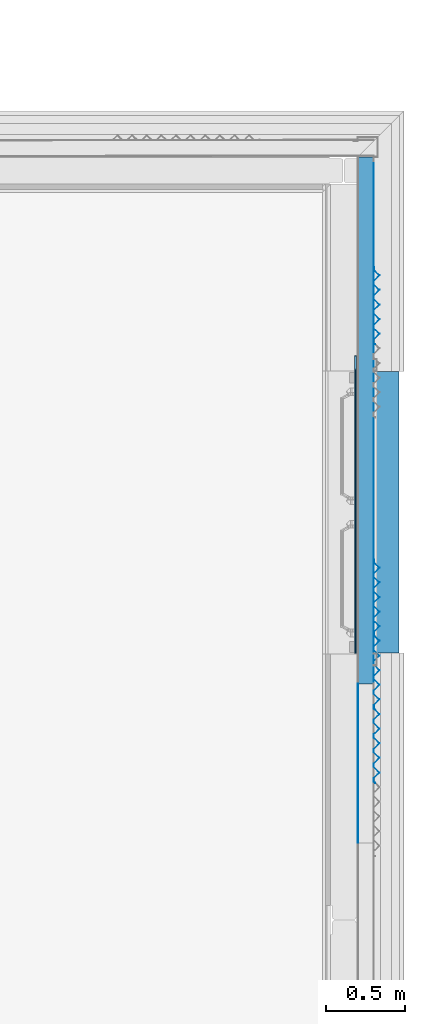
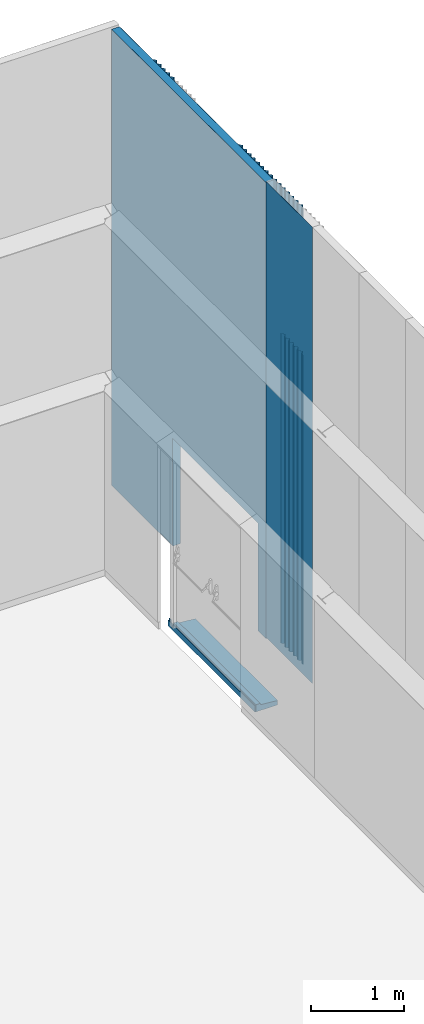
# One storey, part 111 of 338: 10 building element parts, 1 opening, 7 elements without a shape of their own.
"""IFC2X3 building model written with IfcOpenShell, lengths in millimetres."""

from ifc_helpers import new_model, entity, si_unit, converted_unit, derived_unit, money_unit, direction, frame, origin_with_axes, place, context, subcontext, project, spatial, faceted_brep, material, type_object, element, aggregate, save


model = new_model("IFC2X3")

# Units and contexts
model_context = context("Model", 3, precision=0.01, world=origin_with_axes(), true_north=direction((0.0, 1.0)))
plan_context = context("Plan", 3, precision=0.01, world=origin_with_axes(), true_north=direction((0.0, 1.0)))
body_context = subcontext(model_context, "Body", "Model", "MODEL_VIEW")
ifc_project = project(units=[si_unit("LENGTHUNIT", "METRE", prefix="MILLI"), si_unit("AREAUNIT", "SQUARE_METRE"), si_unit("VOLUMEUNIT", "CUBIC_METRE"), converted_unit("PLANEANGLEUNIT", "DEGREE", entity("IfcPlaneAngleMeasure", 0.0174532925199), si_unit("PLANEANGLEUNIT", "RADIAN"), dimensions=[0, 0, 0, 0, 0, 0, 0]), money_unit("EUR"), converted_unit("TIMEUNIT", "Year", entity("IfcTimeMeasure", 31556926.0), si_unit("TIMEUNIT", "SECOND"), dimensions=[0, 0, 1, 0, 0, 0, 0]), si_unit("MASSUNIT", "GRAM", prefix="KILO"), si_unit("THERMODYNAMICTEMPERATUREUNIT", "DEGREE_CELSIUS"), si_unit("LUMINOUSINTENSITYUNIT", "LUMEN"), si_unit("ENERGYUNIT", "JOULE", prefix="MEGA"), derived_unit("THERMALCONDUCTANCEUNIT", [(si_unit("POWERUNIT", "WATT"), 1), (si_unit("LENGTHUNIT", "METRE"), -1), (si_unit("THERMODYNAMICTEMPERATUREUNIT", "KELVIN"), -1)]), derived_unit("SPECIFICHEATCAPACITYUNIT", [(si_unit("ENERGYUNIT", "JOULE"), 1), (si_unit("MASSUNIT", "GRAM", prefix="KILO"), -1), (si_unit("THERMODYNAMICTEMPERATUREUNIT", "KELVIN"), -1)]), derived_unit("MASSDENSITYUNIT", [(si_unit("MASSUNIT", "GRAM", prefix="KILO"), 1), (si_unit("VOLUMEUNIT", "CUBIC_METRE"), -1)])], contexts=[model_context, plan_context])

# Site, building, storey
site_placement = place(None, origin_with_axes())
site = spatial("IfcSite", under=ifc_project, at=site_placement, Name="Fortuinstraat Woensdrecht", CompositionType="ELEMENT")
building_placement = place(site_placement, origin_with_axes())
building = spatial("IfcBuilding", under=site, at=building_placement, Name="IKC Fortuna", CompositionType="ELEMENT")
storey_placement = place(building_placement, origin_with_axes())
storey = spatial("IfcBuildingStorey", under=building, at=storey_placement, Name="00 begane grond", CompositionType="ELEMENT", Elevation=0.0)

# Wall, building element part
wall_type = type_object("IfcWallType", Name="21 sandwich 100", PredefinedType="NOTDEFINED")
wall_1_placement = place(storey_placement, frame((59433.4270571, 32181.3126832, 1000.0), z_axis=(0.0, 0.0, 1.0), x_axis=(0.0, -1.0, 0.0)))
wall_1 = element("IfcWall", 1, at=wall_1_placement, inside=storey, type_object=wall_type, Name="21_Wand_sandwichplaat")
ifc_material_1 = material(Name="Metaal - Aluminium")
building_element_part_1_placement = place(wall_1_placement, origin_with_axes())
building_element_part_1 = element("IfcBuildingElementPart", 2, at=building_element_part_1_placement, material=ifc_material_1, Name="Metaal - Aluminium", context=body_context, shape_type="Brep", body=[
    faceted_brep([(0.0, 6.21440676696e-08, 18.9263474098), (1000.0, 7.12176984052e-08, 18.9263474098), (1000.0, 0.0, 6000.0), (0.0, 0.0, 6000.0), (0.0, 1.00000004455, 18.9261694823), (1000.0, 1.00000004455, 18.9261694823), (1000.0, 0.999999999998, 6000.0), (0.0, 0.999999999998, 6000.0)], [[[0, 1, 2, 3]], [[1, 0, 4, 5]], [[2, 1, 5, 6]], [[3, 2, 6, 7]], [[0, 3, 7, 4]], [[5, 4, 7, 6]]]),
])
aggregate(wall_1, [building_element_part_1])

# Covering, building element parts
covering_type = type_object("IfcCoveringType", Name="41 dorpel d bu 280 x 95", PredefinedType="NOTDEFINED")
covering_placement = place(storey_placement, frame((59553.4270571, 34145.3126656, -2.5), z_axis=(0.0, 0.0, 1.0), x_axis=(0.0, -1.0, 0.0)))
covering = element("IfcCovering", 3, at=covering_placement, inside=storey, type_object=covering_type, Name="41_Afwerking_Waterslag", PredefinedType="NOTDEFINED")
ifc_material_2 = material(Name="Steen - Kunststeen")
building_element_part_2_placement = place(covering_placement, origin_with_axes())
building_element_part_2 = element("IfcBuildingElementPart", 4, at=building_element_part_2_placement, material=ifc_material_2, Name="Steen - Kunststeen", context=body_context, shape_type="Brep", body=[
    faceted_brep([(-63.6579437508, -126.653126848, 22.5), (-64.983962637, -123.261687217, 22.5), (-64.983962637, -119.99999994, 22.5), (-100.0, -119.99999994, 22.5), (-100.0, -130.0, 22.5), (-38.4839618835, -130.0, 22.5), (-60.3832175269, -128.245721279, 22.5), (-63.6579437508, -126.653126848, -47.5), (-64.983962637, -123.261687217, -47.5), (-64.983962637, -119.99999994, -47.5), (-4.98396263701, -119.99999994, -47.5), (-4.98396263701, -119.99999994, 22.5), (0.0, -119.99999994, 22.5), (0.0, -119.99999994, -72.5), (-100.0, -119.99999994, -72.5), (-100.0, -130.0, -72.5), (-100.0, -129.999999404, 2.49999821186), (-38.4839693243, -129.999999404, 2.49999821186), (-38.4839693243, -129.999999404, -47.5), (-60.3832175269, -128.245721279, -47.5), (-4.98396263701, -129.999999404, -47.5), (-4.98396263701, -130.0, 22.5), (-4.98396263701, -129.999999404, 2.49999821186), (1770.00013762, -130.0, 22.5), (1770.00013762, -76.0, 22.5), (0.0, -76.0, 22.5), (0.0, 140.0, -72.5), (0.0, -76.0, 3.2274112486), (0.0, 140.0, -16.4126924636), (1770.00013762, 140.0, -72.5), (1770.00013762, -130.0, -72.5), (1770.00013762, -129.999999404, 2.49999821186), (1770.00013762, 140.0, -16.4126924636), (1770.00013762, -76.0, 3.2274112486)], [[[0, 1, 2, 3, 4, 5, 6]], [[1, 0, 7, 8]], [[9, 2, 1, 8]], [[10, 11, 12, 13, 14, 3, 2, 9]], [[4, 3, 14, 15, 16]], [[17, 5, 4, 16]], [[6, 5, 17, 18, 19]], [[0, 6, 19, 7]], [[10, 9, 8, 7, 19, 18, 20]], [[21, 11, 10, 20, 22]], [[11, 21, 23, 24, 25, 12]], [[26, 13, 12, 25, 27, 28]], [[14, 13, 26, 29, 30, 15]], [[18, 17, 16, 15, 30, 31, 22, 20]], [[21, 22, 31, 23]], [[31, 30, 29, 32, 33, 24, 23]], [[33, 27, 25, 24]], [[28, 27, 33, 32]], [[29, 26, 28, 32]]]),
])
ifc_material_3 = material(Name="Isolatie - PUR gespoten")
building_element_part_3_placement = place(covering_placement, origin_with_axes())
building_element_part_3 = element("IfcBuildingElementPart", 5, at=building_element_part_3_placement, material=ifc_material_3, Name="Isolatie - PUR gespoten", context=body_context, shape_type="Brep", body=[
    faceted_brep([(-14.6360004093, -134.570916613, 2.49999821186), (-21.1854528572, -131.385727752, 2.49999821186), (-38.4839693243, -129.999999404, 2.49999821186), (-100.0, -129.999999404, 2.49999821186), (-100.0, -140.0, 2.49999821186), (-12.5132832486, -140.0, 2.49999821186), (-14.6360004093, -134.570916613, -47.5), (-21.1854528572, -131.385727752, -47.5), (-38.4839693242, -129.999999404, -47.5), (-4.98396263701, -129.999999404, -47.5), (-4.98396263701, -129.999999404, 2.49999821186), (1770.00013762, -129.999999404, 2.49999821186), (1770.00013762, -129.999999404, -72.5), (-100.0, -129.999999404, -72.5), (-100.0, -140.0, -72.5), (-12.5132832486, -140.0, -47.5), (1770.00013762, -140.0, -72.5), (1770.00013762, -140.0, 2.49999821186), (-4.98396263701, -140.0, 2.49999821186), (-4.98396263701, -140.0, -47.5)], [[[0, 1, 2, 3, 4, 5]], [[1, 0, 6, 7]], [[8, 2, 1, 7]], [[9, 10, 11, 12, 13, 3, 2, 8]], [[14, 4, 3, 13]], [[15, 5, 4, 14, 16, 17, 18, 19]], [[0, 5, 15, 6]], [[9, 8, 7, 6, 15, 19]], [[18, 10, 9, 19]], [[10, 18, 17, 11]], [[12, 11, 17, 16]], [[16, 14, 13, 12]]]),
])
aggregate(covering, [building_element_part_2, building_element_part_3])

# Wall, opening, building element parts
wall_2_placement = place(storey_placement, frame((59533.4270571, 35495.2966283, 1000.0), z_axis=(0.0, 0.0, 1.0), x_axis=(0.0, -1.0, 0.0)))
wall_2 = element("IfcWall", 6, at=wall_2_placement, inside=storey, type_object=wall_type, Name="21_Wand_sandwichplaat")
opening_placement = place(wall_2_placement, frame((2234.98396266, 0.0, -1000.0), z_axis=(0.0, 0.0, 1.0), x_axis=(1.0, 0.0, 0.0)))
element("IfcOpeningElement", 7, at=opening_placement, cuts=wall_2, Name="31_Deur_H.14", context=body_context, shape_type="Brep", body=[
    faceted_brep([(-921.0, -40.0, 2410.0), (-921.0, -40.0, -485.0), (-921.0, -200.0, -485.0), (-921.0, -200.0, 2410.0), (905.0, -40.0, 2410.0), (905.0, -40.0, -485.0), (905.0, -200.0, -485.0), (905.0, -200.0, 2410.0)], [[[0, 1, 2, 3]], [[0, 4, 5, 1]], [[1, 5, 6, 2]], [[3, 2, 6, 7]], [[4, 0, 3, 7]], [[5, 4, 7, 6]]]),
    faceted_brep([(-921.0, -40.0, -485.0), (-921.0, -40.0, 2410.0), (-921.0, 100.0, 2410.0), (-921.0, 100.0, -485.0), (905.0, -40.0, -485.0), (905.0, -40.0, 2410.0), (905.0, 100.0, 2410.0), (905.0, 100.0, -485.0)], [[[0, 1, 2, 3]], [[0, 4, 5, 1]], [[1, 5, 6, 2]], [[3, 2, 6, 7]], [[4, 0, 3, 7]], [[5, 4, 7, 6]]]),
])
building_element_part_4_placement = place(wall_2_placement, origin_with_axes())
building_element_part_4 = element("IfcBuildingElementPart", 8, at=building_element_part_4_placement, material=ifc_material_1, Name="Metaal - Aluminium", context=body_context, shape_type="Brep", body=[
    faceted_brep([(3139.98396266, 0.0, 0.0), (3139.98396266, 0.0, 1410.0), (1313.98396266, 0.0, 1410.0), (1313.98396266, 0.0, 0.0), (0.0, 0.0, 0.0), (0.0, 0.0, 5979.99999804), (3313.98394504, 0.0, 5979.99999804), (3313.98394504, 0.0, 0.0), (3139.98396266, -0.999999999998, 0.0), (3139.98396266, -0.999999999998, 1410.0), (1313.98396266, -0.999999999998, 1410.0), (1313.98396266, -0.999999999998, 0.0), (0.0, -0.999999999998, 0.0), (0.0, -0.999999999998, 5979.99999804), (3313.98394504, -0.999999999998, 5979.99999804), (3313.98394504, -0.999999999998, 0.0)], [[[0, 1, 2, 3, 4, 5, 6, 7]], [[1, 0, 8, 9]], [[2, 1, 9, 10]], [[3, 2, 10, 11]], [[3, 11, 12, 4]], [[12, 13, 5, 4]], [[13, 14, 6, 5]], [[6, 14, 15, 7]], [[8, 0, 7, 15]], [[9, 8, 15, 14, 13, 12, 11, 10]]]),
])
ifc_material_4 = material(Name="Isolatie - Kunststof hard")
building_element_part_5_placement = place(wall_2_placement, origin_with_axes())
building_element_part_5 = element("IfcBuildingElementPart", 9, at=building_element_part_5_placement, material=ifc_material_4, Name="Isolatie - Kunststof hard", context=body_context, shape_type="Brep", body=[
    faceted_brep([(3139.98396266, -0.999999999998, 1410.0), (3139.98396266, -99.0, 1410.0), (1313.98396266, -99.0, 1410.0), (1313.98396266, -0.999999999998, 1410.0), (3139.98396266, -40.0, 0.0), (3139.98396266, -99.0, 0.0), (3139.98396266, -0.999999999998, 0.0), (3313.98394504, -99.0, 0.0), (3313.98394504, -99.0, 5979.99999804), (0.0, -99.0, 5979.99999804), (0.0, -99.0, 0.0), (1313.98396266, -99.0, 0.0), (1313.98396266, -40.0, 0.0), (1313.98396266, -0.999999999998, 0.0), (0.0, -0.999999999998, 5979.99999804), (3313.98394504, -0.999999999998, 5979.99999804), (3313.98394504, -0.999999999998, 0.0), (0.0, -0.999999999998, 0.0)], [[[0, 1, 2, 3]], [[4, 5, 1, 0, 6]], [[1, 5, 7, 8, 9, 10, 11, 2]], [[3, 2, 11, 12, 13]], [[14, 15, 16, 6, 0, 3, 13, 17]], [[5, 4, 6, 16, 7]], [[16, 15, 8, 7]], [[14, 9, 8, 15]], [[17, 10, 9, 14]], [[12, 11, 10, 17, 13]]]),
])
aggregate(wall_2, [building_element_part_4, building_element_part_5])

# Proxy, building element part
building_element_proxy_type = type_object("IfcBuildingElementProxyType", Name="21 Sandwich custom pyramid 946 x 37", PredefinedType="NOTDEFINED")
proxy_1_placement = place(storey_placement, frame((59533.4270571, 32043.6060069, 1000.0), z_axis=(0.0, 0.0, 1.0), x_axis=(0.0, -1.0, 0.0)))
proxy_1 = element("IfcBuildingElementProxy", 10, at=proxy_1_placement, inside=storey, type_object=building_element_proxy_type, Name="41_Generieke bekleding & afwerking buiten_sandwich custom pyramid")
building_element_part_6_placement = place(proxy_1_placement, origin_with_axes())
building_element_part_6 = element("IfcBuildingElementPart", 11, at=building_element_part_6_placement, material=ifc_material_1, Name="Metaal - Aluminium", context=body_context, shape_type="Brep", body=[
    faceted_brep([(0.0, 2.39999686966, 0.0), (0.0, 1.20000548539, 0.0), (0.0, 1.20000548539, 4060.85690076), (0.0, 2.39999686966, 4060.85690076), (16.7470988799, 2.39999686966, 0.0), (52.0000026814, 36.6736482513, 0.0), (88.487191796, 1.20000548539, 0.0), (107.51282048, 1.20000548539, 0.0), (143.999995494, 36.6736482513, 0.0), (180.487184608, 1.20000548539, 0.0), (199.512813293, 1.20000548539, 0.0), (236.000002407, 36.6736482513, 0.0), (272.487191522, 1.20000548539, 0.0), (291.512820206, 1.20000548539, 0.0), (327.99999522, 36.6736482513, 0.0), (364.487184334, 1.20000548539, 0.0), (383.512813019, 1.20000548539, 0.0), (420.000002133, 36.6736482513, 0.0), (456.487191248, 1.20000548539, 0.0), (460.000006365, 1.20000548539, 0.0), (477.23428491, 1.20000548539, 0.0), (485.472879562, 9.20975302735, 0.0), (486.309372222, 8.34935896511, 0.0), (477.721464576, 0.0, 0.0), (455.999997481, 0.0, 0.0), (420.000002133, 35.0000001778, 0.0), (384.000006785, 0.0, 0.0), (364.000004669, 0.0, 0.0), (327.99999522, 35.0000001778, 0.0), (291.999999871, 0.0, 0.0), (271.999997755, 0.0, 0.0), (236.000002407, 35.0000001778, 0.0), (199.999992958, 0.0, 0.0), (180.000004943, 0.0, 0.0), (143.999995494, 35.0000001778, 0.0), (108.000000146, 0.0, 0.0), (87.9999980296, 0.0, 0.0), (52.0000026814, 35.0000001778, 0.0), (17.2342926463, 1.20000548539, 0.0), (17.2342926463, 1.20000548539, 4060.85690076), (52.0000026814, 35.0000001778, 4060.85690076), (87.9999980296, 0.0, 4060.85690076), (108.000000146, 0.0, 4060.85690076), (143.999995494, 35.0000001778, 4060.85690076), (180.000004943, 0.0, 4060.85690076), (199.999992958, 0.0, 4060.85690076), (236.000002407, 35.0000001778, 4060.85690076), (271.999997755, 0.0, 4060.85690076), (291.999999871, 0.0, 4060.85690076), (327.99999522, 35.0000001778, 4060.85690076), (364.000004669, 0.0, 4060.85690076), (384.000006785, 0.0, 4060.85690076), (420.000002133, 35.0000001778, 4060.85690076), (455.999997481, 0.0, 4060.85690076), (477.721464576, 0.0, 4060.85690076), (486.309372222, 8.34935896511, 4060.85690076), (485.472879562, 9.20975302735, 4060.85690076), (477.23428491, 1.20000548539, 4060.85690076), (460.000006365, 1.20000548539, 4060.85690076), (456.487191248, 1.20000548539, 4060.85690076), (420.000002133, 36.6736482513, 4060.85690076), (383.512813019, 1.20000548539, 4060.85690076), (364.487184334, 1.20000548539, 4060.85690076), (327.99999522, 36.6736482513, 4060.85690076), (291.512820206, 1.20000548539, 4060.85690076), (272.487191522, 1.20000548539, 4060.85690076), (236.000002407, 36.6736482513, 4060.85690076), (199.512813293, 1.20000548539, 4060.85690076), (180.487184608, 1.20000548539, 4060.85690076), (143.999995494, 36.6736482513, 4060.85690076), (107.51282048, 1.20000548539, 4060.85690076), (88.487191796, 1.20000548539, 4060.85690076), (52.0000026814, 36.6736482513, 4060.85690076), (16.7470988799, 2.39999686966, 4060.85690076)], [[[0, 1, 2, 3]], [[0, 4, 5, 6, 7, 8, 9, 10, 11, 12, 13, 14, 15, 16, 17, 18, 19, 20, 21, 22, 23, 24, 25, 26, 27, 28, 29, 30, 31, 32, 33, 34, 35, 36, 37, 38, 1]], [[1, 38, 39, 2]], [[3, 2, 39, 40, 41, 42, 43, 44, 45, 46, 47, 48, 49, 50, 51, 52, 53, 54, 55, 56, 57, 58, 59, 60, 61, 62, 63, 64, 65, 66, 67, 68, 69, 70, 71, 72, 73]], [[4, 0, 3, 73]], [[5, 4, 73, 72]], [[6, 5, 72, 71]], [[7, 6, 71, 70]], [[8, 7, 70, 69]], [[9, 8, 69, 68]], [[10, 9, 68, 67]], [[11, 10, 67, 66]], [[12, 11, 66, 65]], [[13, 12, 65, 64]], [[14, 13, 64, 63]], [[15, 14, 63, 62]], [[16, 15, 62, 61]], [[17, 16, 61, 60]], [[18, 17, 60, 59]], [[19, 18, 59, 58]], [[20, 19, 58, 57]], [[21, 20, 57, 56]], [[22, 21, 56, 55]], [[23, 22, 55, 54]], [[24, 23, 54, 53]], [[25, 24, 53, 52]], [[26, 25, 52, 51]], [[27, 26, 51, 50]], [[28, 27, 50, 49]], [[29, 28, 49, 48]], [[30, 29, 48, 47]], [[31, 30, 47, 46]], [[32, 31, 46, 45]], [[33, 32, 45, 44]], [[34, 33, 44, 43]], [[35, 34, 43, 42]], [[36, 35, 42, 41]], [[37, 36, 41, 40]], [[38, 37, 40, 39]]]),
])
aggregate(proxy_1, [building_element_part_6])

proxy_2_placement = place(storey_placement, frame((59533.4270571, 32043.6060069, 5289.99999237), z_axis=(0.0, 0.0, 1.0), x_axis=(0.0, -1.0, 0.0)))
proxy_2 = element("IfcBuildingElementProxy", 12, at=proxy_2_placement, inside=storey, type_object=building_element_proxy_type, Name="41_Generieke bekleding & afwerking buiten_sandwich custom pyramid")
building_element_part_7_placement = place(proxy_2_placement, origin_with_axes())
building_element_part_7 = element("IfcBuildingElementPart", 13, at=building_element_part_7_placement, material=ifc_material_1, Name="Metaal - Aluminium", context=body_context, shape_type="Brep", body=[
    faceted_brep([(0.0, 2.39999686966, 0.0), (0.0, 1.20000548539, 0.0), (0.0, 1.20000548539, 1690.00000566), (0.0, 2.39999686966, 1690.00000566), (16.7470988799, 2.39999686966, 0.0), (52.0000026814, 36.6736482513, 0.0), (88.487191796, 1.20000548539, 0.0), (107.51282048, 1.20000548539, 0.0), (143.999995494, 36.6736482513, 0.0), (180.487184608, 1.20000548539, 0.0), (199.512813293, 1.20000548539, 0.0), (236.000002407, 36.6736482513, 0.0), (272.487191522, 1.20000548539, 0.0), (291.512820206, 1.20000548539, 0.0), (327.99999522, 36.6736482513, 0.0), (364.487184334, 1.20000548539, 0.0), (383.512813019, 1.20000548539, 0.0), (420.000002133, 36.6736482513, 0.0), (456.487191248, 1.20000548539, 0.0), (460.000006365, 1.20000548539, 0.0), (477.23428491, 1.20000548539, 0.0), (485.472879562, 9.20975302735, 0.0), (486.309372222, 8.34935896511, 0.0), (477.721464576, 0.0, 0.0), (455.999997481, 0.0, 0.0), (420.000002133, 35.0000001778, 0.0), (384.000006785, 0.0, 0.0), (364.000004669, 0.0, 0.0), (327.99999522, 35.0000001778, 0.0), (291.999999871, 0.0, 0.0), (271.999997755, 0.0, 0.0), (236.000002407, 35.0000001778, 0.0), (199.999992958, 0.0, 0.0), (180.000004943, 0.0, 0.0), (143.999995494, 35.0000001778, 0.0), (108.000000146, 0.0, 0.0), (87.9999980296, 0.0, 0.0), (52.0000026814, 35.0000001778, 0.0), (17.2342926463, 1.20000548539, 0.0), (17.2342926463, 1.20000548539, 1690.00000566), (52.0000026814, 35.0000001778, 1690.00000566), (87.9999980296, 0.0, 1690.00000566), (108.000000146, 0.0, 1690.00000566), (143.999995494, 35.0000001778, 1690.00000566), (180.000004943, 0.0, 1690.00000566), (199.999992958, 0.0, 1690.00000566), (236.000002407, 35.0000001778, 1690.00000566), (271.999997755, 0.0, 1690.00000566), (291.999999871, 0.0, 1690.00000566), (327.99999522, 35.0000001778, 1690.00000566), (364.000004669, 0.0, 1690.00000566), (384.000006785, 0.0, 1690.00000566), (420.000002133, 35.0000001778, 1690.00000566), (455.999997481, 0.0, 1690.00000566), (477.721464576, 0.0, 1690.00000566), (486.309372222, 8.34935896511, 1690.00000566), (485.472879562, 9.20975302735, 1690.00000566), (477.23428491, 1.20000548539, 1690.00000566), (460.000006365, 1.20000548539, 1690.00000566), (456.487191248, 1.20000548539, 1690.00000566), (420.000002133, 36.6736482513, 1690.00000566), (383.512813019, 1.20000548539, 1690.00000566), (364.487184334, 1.20000548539, 1690.00000566), (327.99999522, 36.6736482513, 1690.00000566), (291.512820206, 1.20000548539, 1690.00000566), (272.487191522, 1.20000548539, 1690.00000566), (236.000002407, 36.6736482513, 1690.00000566), (199.512813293, 1.20000548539, 1690.00000566), (180.487184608, 1.20000548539, 1690.00000566), (143.999995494, 36.6736482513, 1690.00000566), (107.51282048, 1.20000548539, 1690.00000566), (88.487191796, 1.20000548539, 1690.00000566), (52.0000026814, 36.6736482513, 1690.00000566), (16.7470988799, 2.39999686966, 1690.00000566)], [[[0, 1, 2, 3]], [[0, 4, 5, 6, 7, 8, 9, 10, 11, 12, 13, 14, 15, 16, 17, 18, 19, 20, 21, 22, 23, 24, 25, 26, 27, 28, 29, 30, 31, 32, 33, 34, 35, 36, 37, 38, 1]], [[1, 38, 39, 2]], [[3, 2, 39, 40, 41, 42, 43, 44, 45, 46, 47, 48, 49, 50, 51, 52, 53, 54, 55, 56, 57, 58, 59, 60, 61, 62, 63, 64, 65, 66, 67, 68, 69, 70, 71, 72, 73]], [[4, 0, 3, 73]], [[5, 4, 73, 72]], [[6, 5, 72, 71]], [[7, 6, 71, 70]], [[8, 7, 70, 69]], [[9, 8, 69, 68]], [[10, 9, 68, 67]], [[11, 10, 67, 66]], [[12, 11, 66, 65]], [[13, 12, 65, 64]], [[14, 13, 64, 63]], [[15, 14, 63, 62]], [[16, 15, 62, 61]], [[17, 16, 61, 60]], [[18, 17, 60, 59]], [[19, 18, 59, 58]], [[20, 19, 58, 57]], [[21, 20, 57, 56]], [[22, 21, 56, 55]], [[23, 22, 55, 54]], [[24, 23, 54, 53]], [[25, 24, 53, 52]], [[26, 25, 52, 51]], [[27, 26, 51, 50]], [[28, 27, 50, 49]], [[29, 28, 49, 48]], [[30, 29, 48, 47]], [[31, 30, 47, 46]], [[32, 31, 46, 45]], [[33, 32, 45, 44]], [[34, 33, 44, 43]], [[35, 34, 43, 42]], [[36, 35, 42, 41]], [[37, 36, 41, 40]], [[38, 37, 40, 39]]]),
])
aggregate(proxy_2, [building_element_part_7])

# Proxy, building element parts
proxy_3_placement = place(storey_placement, frame((59533.4270571, 32963.6060069, 5289.99999237), z_axis=(0.0, 0.0, 1.0), x_axis=(0.0, -1.0, 0.0)))
proxy_3 = element("IfcBuildingElementProxy", 14, at=proxy_3_placement, inside=storey, type_object=building_element_proxy_type, Name="41_Generieke bekleding & afwerking buiten_sandwich custom pyramid")
building_element_part_8_placement = place(proxy_3_placement, origin_with_axes())
building_element_part_8 = element("IfcBuildingElementPart", 15, at=building_element_part_8_placement, material=ifc_material_1, Name="Metaal - Aluminium", context=body_context, shape_type="Brep", body=[
    faceted_brep([(0.0, 2.39999686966, 0.0), (0.0, 1.20000548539, 0.0), (0.0, 1.20000548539, 1690.00000566), (0.0, 2.39999686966, 1690.00000566), (16.7470988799, 2.39999686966, 0.0), (52.0000026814, 36.6736482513, 0.0), (88.487191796, 1.20000548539, 0.0), (107.51282048, 1.20000548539, 0.0), (143.999995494, 36.6736482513, 0.0), (180.487184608, 1.20000548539, 0.0), (199.512813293, 1.20000548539, 0.0), (236.000002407, 36.6736482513, 0.0), (272.487191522, 1.20000548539, 0.0), (291.512820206, 1.20000548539, 0.0), (327.99999522, 36.6736482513, 0.0), (364.487184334, 1.20000548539, 0.0), (383.512813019, 1.20000548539, 0.0), (420.000002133, 36.6736482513, 0.0), (456.487191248, 1.20000548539, 0.0), (460.000006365, 1.20000548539, 0.0), (477.23428491, 1.20000548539, 0.0), (485.472879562, 9.20975302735, 0.0), (486.309372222, 8.34935896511, 0.0), (477.721464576, 0.0, 0.0), (455.999997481, 0.0, 0.0), (420.000002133, 35.0000001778, 0.0), (384.000006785, 0.0, 0.0), (364.000004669, 0.0, 0.0), (327.99999522, 35.0000001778, 0.0), (291.999999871, 0.0, 0.0), (271.999997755, 0.0, 0.0), (236.000002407, 35.0000001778, 0.0), (199.999992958, 0.0, 0.0), (180.000004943, 0.0, 0.0), (143.999995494, 35.0000001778, 0.0), (108.000000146, 0.0, 0.0), (87.9999980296, 0.0, 0.0), (52.0000026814, 35.0000001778, 0.0), (17.2342926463, 1.20000548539, 0.0), (17.2342926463, 1.20000548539, 1690.00000566), (52.0000026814, 35.0000001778, 1690.00000566), (87.9999980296, 0.0, 1690.00000566), (108.000000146, 0.0, 1690.00000566), (143.999995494, 35.0000001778, 1690.00000566), (180.000004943, 0.0, 1690.00000566), (199.999992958, 0.0, 1690.00000566), (236.000002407, 35.0000001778, 1690.00000566), (271.999997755, 0.0, 1690.00000566), (291.999999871, 0.0, 1690.00000566), (327.99999522, 35.0000001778, 1690.00000566), (364.000004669, 0.0, 1690.00000566), (384.000006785, 0.0, 1690.00000566), (420.000002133, 35.0000001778, 1690.00000566), (455.999997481, 0.0, 1690.00000566), (477.721464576, 0.0, 1690.00000566), (486.309372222, 8.34935896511, 1690.00000566), (485.472879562, 9.20975302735, 1690.00000566), (477.23428491, 1.20000548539, 1690.00000566), (460.000006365, 1.20000548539, 1690.00000566), (456.487191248, 1.20000548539, 1690.00000566), (420.000002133, 36.6736482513, 1690.00000566), (383.512813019, 1.20000548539, 1690.00000566), (364.487184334, 1.20000548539, 1690.00000566), (327.99999522, 36.6736482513, 1690.00000566), (291.512820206, 1.20000548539, 1690.00000566), (272.487191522, 1.20000548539, 1690.00000566), (236.000002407, 36.6736482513, 1690.00000566), (199.512813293, 1.20000548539, 1690.00000566), (180.487184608, 1.20000548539, 1690.00000566), (143.999995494, 36.6736482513, 1690.00000566), (107.51282048, 1.20000548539, 1690.00000566), (88.487191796, 1.20000548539, 1690.00000566), (52.0000026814, 36.6736482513, 1690.00000566), (16.7470988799, 2.39999686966, 1690.00000566)], [[[0, 1, 2, 3]], [[0, 4, 5, 6, 7, 8, 9, 10, 11, 12, 13, 14, 15, 16, 17, 18, 19, 20, 21, 22, 23, 24, 25, 26, 27, 28, 29, 30, 31, 32, 33, 34, 35, 36, 37, 38, 1]], [[1, 38, 39, 2]], [[3, 2, 39, 40, 41, 42, 43, 44, 45, 46, 47, 48, 49, 50, 51, 52, 53, 54, 55, 56, 57, 58, 59, 60, 61, 62, 63, 64, 65, 66, 67, 68, 69, 70, 71, 72, 73]], [[4, 0, 3, 73]], [[5, 4, 73, 72]], [[6, 5, 72, 71]], [[7, 6, 71, 70]], [[8, 7, 70, 69]], [[9, 8, 69, 68]], [[10, 9, 68, 67]], [[11, 10, 67, 66]], [[12, 11, 66, 65]], [[13, 12, 65, 64]], [[14, 13, 64, 63]], [[15, 14, 63, 62]], [[16, 15, 62, 61]], [[17, 16, 61, 60]], [[18, 17, 60, 59]], [[19, 18, 59, 58]], [[20, 19, 58, 57]], [[21, 20, 57, 56]], [[22, 21, 56, 55]], [[23, 22, 55, 54]], [[24, 23, 54, 53]], [[25, 24, 53, 52]], [[26, 25, 52, 51]], [[27, 26, 51, 50]], [[28, 27, 50, 49]], [[29, 28, 49, 48]], [[30, 29, 48, 47]], [[31, 30, 47, 46]], [[32, 31, 46, 45]], [[33, 32, 45, 44]], [[34, 33, 44, 43]], [[35, 34, 43, 42]], [[36, 35, 42, 41]], [[37, 36, 41, 40]], [[38, 37, 40, 39]]]),
])
building_element_part_9_placement = place(proxy_3_placement, origin_with_axes())
building_element_part_9 = element("IfcBuildingElementPart", 16, at=building_element_part_9_placement, material=ifc_material_1, Name="Metaal - Aluminium", context=body_context, shape_type="Brep", body=[
    faceted_brep([(460.0, 1.2, 0.0), (477.234285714, 1.2, 0.0), (477.234285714, 1.2, 1690.00000566), (460.0, 1.2, 1690.00000566), (460.0, 2.4, 0.0), (476.747100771, 2.4, 0.0), (512.0, 36.6736520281, 0.0), (548.487184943, 1.2, 0.0), (567.512815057, 1.2, 0.0), (604.0, 36.6736520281, 0.0), (640.487184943, 1.2, 0.0), (659.512815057, 1.2, 0.0), (696.0, 36.6736520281, 0.0), (732.487184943, 1.2, 0.0), (751.512815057, 1.2, 0.0), (788.0, 36.6736520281, 0.0), (824.487184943, 1.2, 0.0), (843.512815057, 1.2, 0.0), (880.0, 36.6736520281, 0.0), (916.487184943, 1.2, 0.0), (937.234285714, 1.2, 0.0), (945.472884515, 9.20974883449, 0.0), (946.309378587, 8.34935493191, 0.0), (937.721470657, 0.0, 0.0), (916.0, 0.0, 0.0), (880.0, 35.0, 0.0), (844.0, 0.0, 0.0), (824.0, 0.0, 0.0), (788.0, 35.0, 0.0), (752.0, 0.0, 0.0), (732.0, 0.0, 0.0), (696.0, 35.0, 0.0), (660.0, 0.0, 0.0), (640.0, 0.0, 0.0), (604.0, 35.0, 0.0), (568.0, 0.0, 0.0), (548.0, 0.0, 0.0), (512.0, 35.0, 0.0), (485.472879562, 9.20975302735, 0.0), (485.472879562, 9.20975302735, 1690.00000566), (512.0, 35.0, 1690.00000566), (548.0, 0.0, 1690.00000566), (568.0, 0.0, 1690.00000566), (604.0, 35.0, 1690.00000566), (640.0, 0.0, 1690.00000566), (660.0, 0.0, 1690.00000566), (696.0, 35.0, 1690.00000566), (732.0, 0.0, 1690.00000566), (752.0, 0.0, 1690.00000566), (788.0, 35.0, 1690.00000566), (824.0, 0.0, 1690.00000566), (844.0, 0.0, 1690.00000566), (880.0, 35.0, 1690.00000566), (916.0, 0.0, 1690.00000566), (937.721470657, 0.0, 1690.00000566), (946.309378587, 8.34935493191, 1690.00000566), (945.472884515, 9.20974883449, 1690.00000566), (937.234285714, 1.2, 1690.00000566), (916.487184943, 1.2, 1690.00000566), (880.0, 36.6736520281, 1690.00000566), (843.512815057, 1.2, 1690.00000566), (824.487184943, 1.2, 1690.00000566), (788.0, 36.6736520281, 1690.00000566), (751.512815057, 1.2, 1690.00000566), (732.487184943, 1.2, 1690.00000566), (696.0, 36.6736520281, 1690.00000566), (659.512815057, 1.2, 1690.00000566), (640.487184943, 1.2, 1690.00000566), (604.0, 36.6736520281, 1690.00000566), (567.512815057, 1.2, 1690.00000566), (548.487184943, 1.2, 1690.00000566), (512.0, 36.6736520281, 1690.00000566), (476.747100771, 2.4, 1690.00000566), (460.0, 2.4, 1690.00000566)], [[[0, 1, 2, 3]], [[0, 4, 5, 6, 7, 8, 9, 10, 11, 12, 13, 14, 15, 16, 17, 18, 19, 20, 21, 22, 23, 24, 25, 26, 27, 28, 29, 30, 31, 32, 33, 34, 35, 36, 37, 38, 1]], [[1, 38, 39, 2]], [[3, 2, 39, 40, 41, 42, 43, 44, 45, 46, 47, 48, 49, 50, 51, 52, 53, 54, 55, 56, 57, 58, 59, 60, 61, 62, 63, 64, 65, 66, 67, 68, 69, 70, 71, 72, 73]], [[4, 0, 3, 73]], [[5, 4, 73, 72]], [[6, 5, 72, 71]], [[7, 6, 71, 70]], [[8, 7, 70, 69]], [[9, 8, 69, 68]], [[10, 9, 68, 67]], [[11, 10, 67, 66]], [[12, 11, 66, 65]], [[13, 12, 65, 64]], [[14, 13, 64, 63]], [[15, 14, 63, 62]], [[16, 15, 62, 61]], [[17, 16, 61, 60]], [[18, 17, 60, 59]], [[19, 18, 59, 58]], [[20, 19, 58, 57]], [[21, 20, 57, 56]], [[22, 21, 56, 55]], [[23, 22, 55, 54]], [[24, 23, 54, 53]], [[25, 24, 53, 52]], [[26, 25, 52, 51]], [[27, 26, 51, 50]], [[28, 27, 50, 49]], [[29, 28, 49, 48]], [[30, 29, 48, 47]], [[31, 30, 47, 46]], [[32, 31, 46, 45]], [[33, 32, 45, 44]], [[34, 33, 44, 43]], [[35, 34, 43, 42]], [[36, 35, 42, 41]], [[37, 36, 41, 40]], [[38, 37, 40, 39]]]),
])
aggregate(proxy_3, [building_element_part_8, building_element_part_9])

# Proxy, building element part
proxy_4_placement = place(storey_placement, frame((59533.4270571, 34803.6060069, 5289.99999237), z_axis=(0.0, 0.0, 1.0), x_axis=(0.0, -1.0, 0.0)))
proxy_4 = element("IfcBuildingElementProxy", 17, at=proxy_4_placement, inside=storey, type_object=building_element_proxy_type, Name="41_Generieke bekleding & afwerking buiten_sandwich custom pyramid")
building_element_part_10_placement = place(proxy_4_placement, origin_with_axes())
building_element_part_10 = element("IfcBuildingElementPart", 18, at=building_element_part_10_placement, material=ifc_material_1, Name="Metaal - Aluminium", context=body_context, shape_type="Brep", body=[
    faceted_brep([(0.0, 2.39999686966, 0.0), (0.0, 1.20000548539, 0.0), (0.0, 1.20000548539, 1690.00000566), (0.0, 2.39999686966, 1690.00000566), (16.7470988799, 2.39999686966, 0.0), (52.0000026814, 36.6736482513, 0.0), (88.487191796, 1.20000548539, 0.0), (107.51282048, 1.20000548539, 0.0), (143.999995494, 36.6736482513, 0.0), (180.487184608, 1.20000548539, 0.0), (199.512813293, 1.20000548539, 0.0), (236.000002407, 36.6736482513, 0.0), (272.487191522, 1.20000548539, 0.0), (291.512820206, 1.20000548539, 0.0), (327.99999522, 36.6736482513, 0.0), (364.487184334, 1.20000548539, 0.0), (383.512813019, 1.20000548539, 0.0), (420.000002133, 36.6736482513, 0.0), (456.487191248, 1.20000548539, 0.0), (460.000006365, 1.20000548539, 0.0), (477.23428491, 1.20000548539, 0.0), (485.472879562, 9.20975302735, 0.0), (486.309372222, 8.34935896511, 0.0), (477.721464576, 0.0, 0.0), (455.999997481, 0.0, 0.0), (420.000002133, 35.0000001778, 0.0), (384.000006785, 0.0, 0.0), (364.000004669, 0.0, 0.0), (327.99999522, 35.0000001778, 0.0), (291.999999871, 0.0, 0.0), (271.999997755, 0.0, 0.0), (236.000002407, 35.0000001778, 0.0), (199.999992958, 0.0, 0.0), (180.000004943, 0.0, 0.0), (143.999995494, 35.0000001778, 0.0), (108.000000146, 0.0, 0.0), (87.9999980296, 0.0, 0.0), (52.0000026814, 35.0000001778, 0.0), (17.2342926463, 1.20000548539, 0.0), (17.2342926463, 1.20000548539, 1690.00000566), (52.0000026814, 35.0000001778, 1690.00000566), (87.9999980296, 0.0, 1690.00000566), (108.000000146, 0.0, 1690.00000566), (143.999995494, 35.0000001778, 1690.00000566), (180.000004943, 0.0, 1690.00000566), (199.999992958, 0.0, 1690.00000566), (236.000002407, 35.0000001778, 1690.00000566), (271.999997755, 0.0, 1690.00000566), (291.999999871, 0.0, 1690.00000566), (327.99999522, 35.0000001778, 1690.00000566), (364.000004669, 0.0, 1690.00000566), (384.000006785, 0.0, 1690.00000566), (420.000002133, 35.0000001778, 1690.00000566), (455.999997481, 0.0, 1690.00000566), (477.721464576, 0.0, 1690.00000566), (486.309372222, 8.34935896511, 1690.00000566), (485.472879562, 9.20975302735, 1690.00000566), (477.23428491, 1.20000548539, 1690.00000566), (460.000006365, 1.20000548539, 1690.00000566), (456.487191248, 1.20000548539, 1690.00000566), (420.000002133, 36.6736482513, 1690.00000566), (383.512813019, 1.20000548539, 1690.00000566), (364.487184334, 1.20000548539, 1690.00000566), (327.99999522, 36.6736482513, 1690.00000566), (291.512820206, 1.20000548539, 1690.00000566), (272.487191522, 1.20000548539, 1690.00000566), (236.000002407, 36.6736482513, 1690.00000566), (199.512813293, 1.20000548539, 1690.00000566), (180.487184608, 1.20000548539, 1690.00000566), (143.999995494, 36.6736482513, 1690.00000566), (107.51282048, 1.20000548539, 1690.00000566), (88.487191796, 1.20000548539, 1690.00000566), (52.0000026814, 36.6736482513, 1690.00000566), (16.7470988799, 2.39999686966, 1690.00000566)], [[[0, 1, 2, 3]], [[0, 4, 5, 6, 7, 8, 9, 10, 11, 12, 13, 14, 15, 16, 17, 18, 19, 20, 21, 22, 23, 24, 25, 26, 27, 28, 29, 30, 31, 32, 33, 34, 35, 36, 37, 38, 1]], [[1, 38, 39, 2]], [[3, 2, 39, 40, 41, 42, 43, 44, 45, 46, 47, 48, 49, 50, 51, 52, 53, 54, 55, 56, 57, 58, 59, 60, 61, 62, 63, 64, 65, 66, 67, 68, 69, 70, 71, 72, 73]], [[4, 0, 3, 73]], [[5, 4, 73, 72]], [[6, 5, 72, 71]], [[7, 6, 71, 70]], [[8, 7, 70, 69]], [[9, 8, 69, 68]], [[10, 9, 68, 67]], [[11, 10, 67, 66]], [[12, 11, 66, 65]], [[13, 12, 65, 64]], [[14, 13, 64, 63]], [[15, 14, 63, 62]], [[16, 15, 62, 61]], [[17, 16, 61, 60]], [[18, 17, 60, 59]], [[19, 18, 59, 58]], [[20, 19, 58, 57]], [[21, 20, 57, 56]], [[22, 21, 56, 55]], [[23, 22, 55, 54]], [[24, 23, 54, 53]], [[25, 24, 53, 52]], [[26, 25, 52, 51]], [[27, 26, 51, 50]], [[28, 27, 50, 49]], [[29, 28, 49, 48]], [[30, 29, 48, 47]], [[31, 30, 47, 46]], [[32, 31, 46, 45]], [[33, 32, 45, 44]], [[34, 33, 44, 43]], [[35, 34, 43, 42]], [[36, 35, 42, 41]], [[37, 36, 41, 40]], [[38, 37, 40, 39]]]),
])
aggregate(proxy_4, [building_element_part_10])

save(model, "model.ifc")
